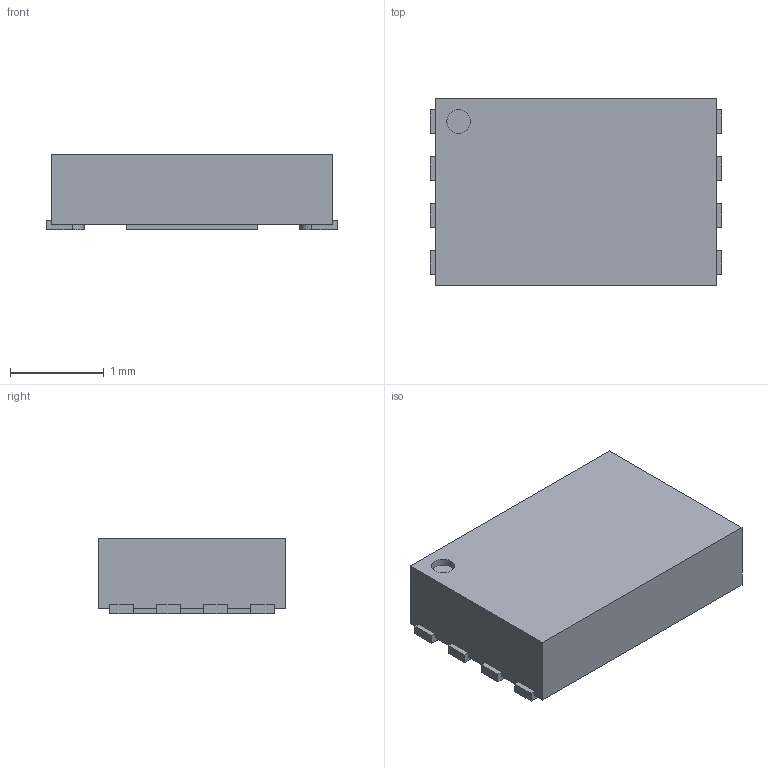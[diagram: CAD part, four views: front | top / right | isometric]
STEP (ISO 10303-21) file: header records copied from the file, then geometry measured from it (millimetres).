
FILE_DESCRIPTION(('FreeCAD Model'),'2;1');
FILE_NAME('/var/www/3D/0T/324420.1.1.stp','2020-04-24T10:26:57',( 'Author'),(''),'Open CASCADE STEP processor 6.9','FreeCAD','Unknown' );
FILE_SCHEMA(('AUTOMOTIVE_DESIGN { 1 0 10303 214 1 1 1 1 }'));
Length unit declared in the file: millimetre
Products named in the file (4): ASSEMBLY; Body; ThermalPin; PinsArrayLR
Assembly tree (3 placements, depth 2):
  ASSEMBLY
    Body
    ThermalPin
    PinsArrayLR
Bounding box: 3.1 x 2 x 0.8 mm (x, y, z)
Volume: 4.8 mm3; surface area: 26.5 mm2
Topology: 10 solids, 10 shells, 62 faces, 123 edges, 82 vertices
Faces by surface type: plane 53, cylinder 9
Full cylindrical faces by diameter (mm): 0.25 x1
Entity records: 3349 total; most frequent: CARTESIAN_POINT 565, DIRECTION 511, LINE 333, VECTOR 333, ORIENTED_EDGE 246, PCURVE 246, DEFINITIONAL_REPRESENTATION 246, EDGE_CURVE 123
